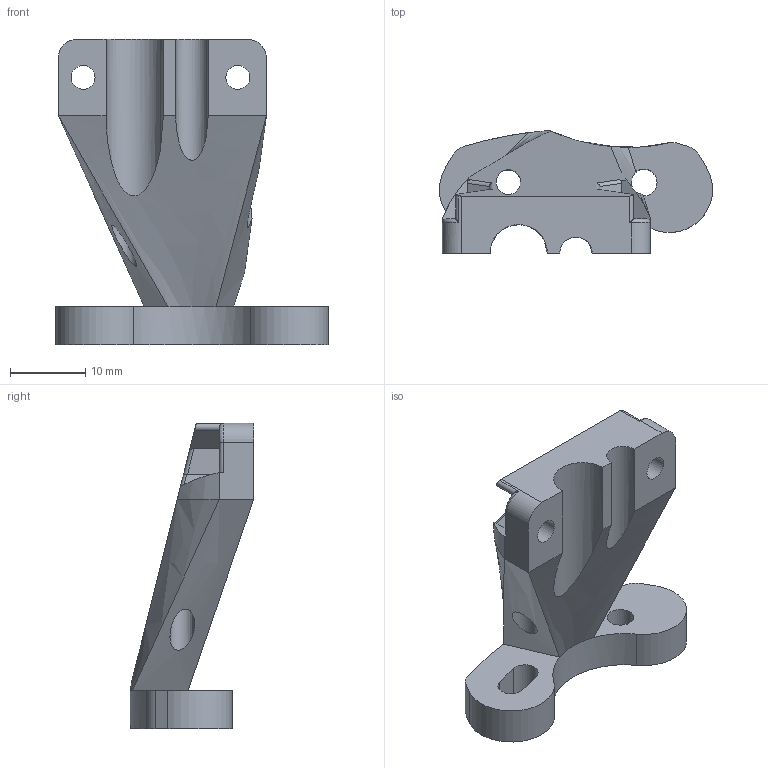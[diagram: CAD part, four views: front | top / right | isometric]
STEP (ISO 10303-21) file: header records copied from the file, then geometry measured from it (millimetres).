
FILE_DESCRIPTION(/* description */ ('Alibre Inc.'),/* implementation_level */ '2;1');
FILE_NAME(/* name */ 'export-25436411-5F30-4B6F-A98F-FD9B6CDD503B',/* time_stamp */ '2020-09-01T18:19:42-07:00',/* author */ (''),/* organization */ (''),/* preprocessor_version */ 'ST-DEVELOPER v17',/* originating_system */ 'Alibre',/* authorisation */ '');
FILE_SCHEMA (('AUTOMOTIVE_DESIGN'));
Length unit declared in the file: millimetre
Bounding box: 36.32 x 16.39 x 40.64 mm (x, y, z)
Volume: 7003.9 mm3; surface area: 3794 mm2
Topology: 1 solids, 1 shells, 63 faces, 174 edges, 113 vertices
Faces by surface type: cylinder 31, plane 24, bspline 6, torus 2
Full cylindrical faces by diameter (mm): 3.175 x2, 3.302 x1, 3.556 x1
Entity records: 2410 total; most frequent: CARTESIAN_POINT 837, ORIENTED_EDGE 338, DIRECTION 287, EDGE_CURVE 169, AXIS2_PLACEMENT_3D 115, VERTEX_POINT 112, VECTOR 80, LINE 80
